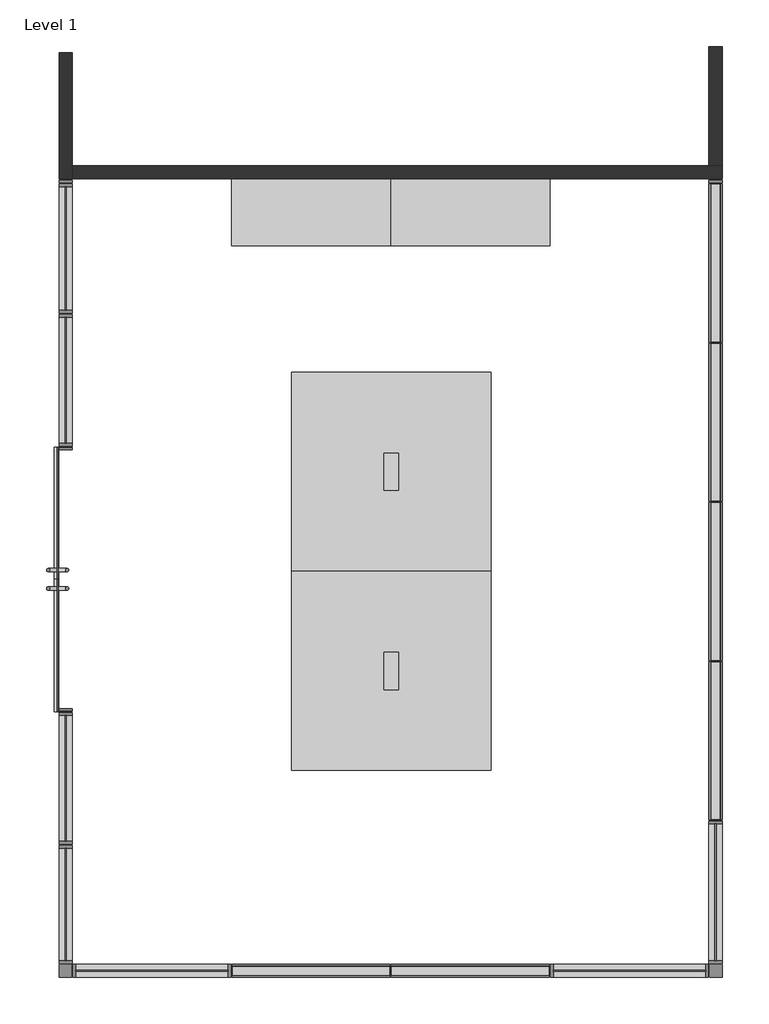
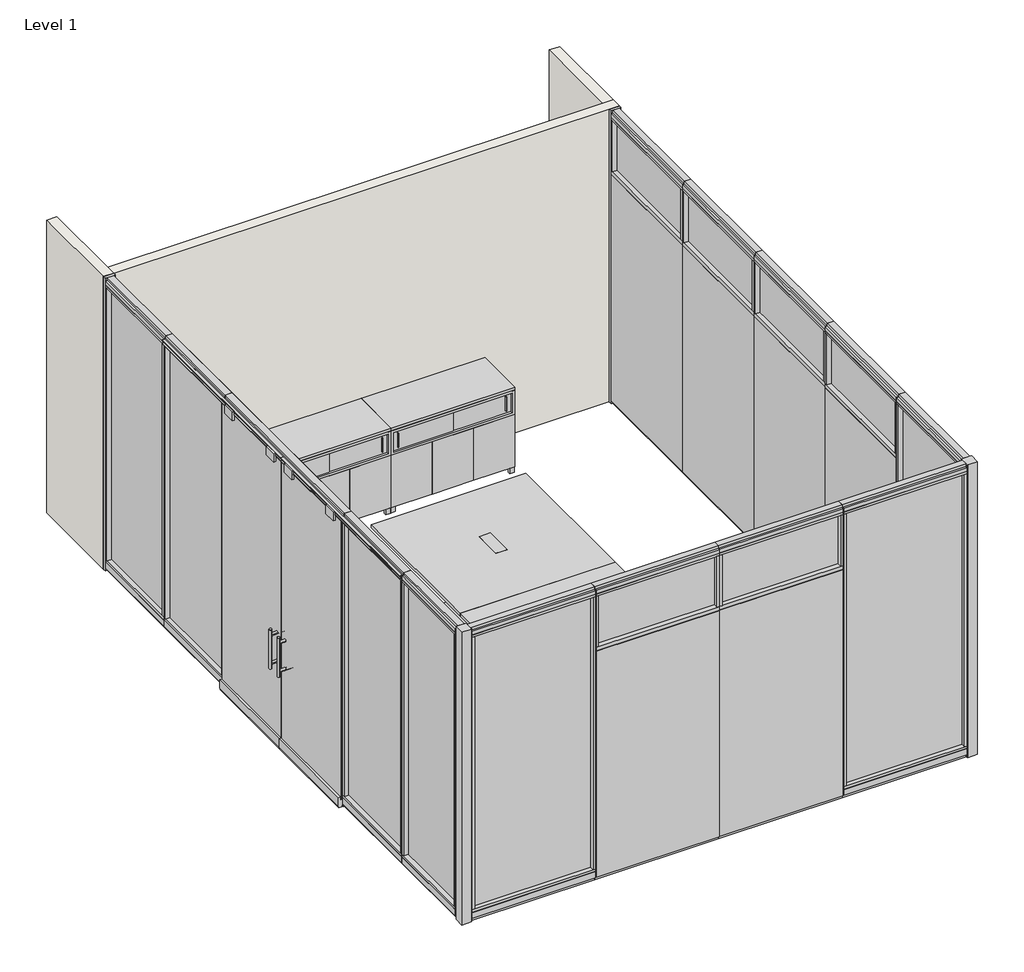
# One storey, incomplete: 22 furniture elements, 3 walls.
"""IFC4 building model written with IfcOpenShell, lengths in millimetres."""

from ifc_helpers import new_model, si_unit, origin, origin_with_axes, place, context, project, spatial, polyline, outline, extrude, faceted_brep, transform, mapped, element, save
from components import furniture_33152e10, furniture_b186ea79, furniture_d8ab0ef7, furniture_c3b1cbea, furniture_a3373b54, furniture_3c25fe57, furniture_37c0ffb3, closed_system_2_way_90_f91a387f, haworth_planes_columnbaseconferencetable_square_e0cd7c03, haworth_planes_credenza_36w_45h_slider_top_8a217daf, low_profile_122eb835

model = new_model("IFC4")

# Units and contexts
model_context = context("Model", 3, world=origin())
ifc_project = project(units=[si_unit("LENGTHUNIT", "METRE", prefix="MILLI")], contexts=[model_context])

# Site, building, storey
site = spatial("IfcSite", under=ifc_project)
building = spatial("IfcBuilding", under=site)
storey = spatial("IfcBuildingStorey", under=building, Name="Level 1", Elevation=0.0)

# Furniture
placement = place(None, origin())
furniture_shape = furniture_33152e10(model_context)
element("IfcFurniture", 1, ObjectType="Haworth_Enclose_Wall_Glass : 36\" x 120\"", at=placement, inside=storey, context=model_context, shape_type="MappedRepresentation", body=[
    mapped(furniture_shape, transform((-2678.7552534, 804.9535492, 0.0), x_axis=(0.0, 1.0, 0.0), y_axis=(-1.0, 0.0, 0.0), z_axis=(0.0, 0.0, 1.0))),
])
furniture_2_shape = furniture_b186ea79(model_context)
element("IfcFurniture", 2, ObjectType="Haworth_Enclose_Wall_Glass : 39\" x 120\"", at=placement, inside=storey, context=model_context, shape_type="MappedRepresentation", body=[
    mapped(furniture_2_shape, transform((-2669.7201673, 5705.128247, 0.0), x_axis=(4.371139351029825e-08, -0.999999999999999, 0.0), y_axis=(0.999999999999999, 4.371139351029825e-08, 0.0), z_axis=(0.0, 0.0, 1.0))),
])
furniture_3_shape = furniture_d8ab0ef7(model_context)
element("IfcFurniture", 3, ObjectType="Haworth_Enclose_Wall_Glass : 40\" x 120\"", at=placement, inside=storey, context=model_context, shape_type="MappedRepresentation", body=[
    mapped(furniture_3_shape, transform((-2678.755547, 4818.15327, 0.0), x_axis=(0.0, 1.0000000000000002, 0.0), y_axis=(-1.0000000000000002, 0.0, 0.0), z_axis=(0.0, 0.0, 1.0))),
])
element("IfcFurniture", 4, ObjectType="Haworth_Enclose_Wall_Glass : 40\" x 120\"", at=placement, inside=storey, context=model_context, shape_type="MappedRepresentation", body=[
    mapped(furniture_3_shape, transform((-2669.7200149, 1650.080213, 0.0), x_axis=(0.0, -1.0, 0.0), y_axis=(1.0, 0.0, 0.0), z_axis=(0.0, 0.0, 1.0))),
])
furniture_4_shape = furniture_c3b1cbea(model_context)
element("IfcFurniture", 5, ObjectType="Haworth_Enclose_Wall_Glass : 43\" x 120\"", at=placement, inside=storey, context=model_context, shape_type="MappedRepresentation", body=[
    mapped(furniture_4_shape, transform((2299.6447356, 897.6732579, 0.0), x_axis=(0.0, 1.0, 0.0), y_axis=(-1.0, 0.0, 0.0), z_axis=(0.0, 0.0, 1.0))),
])
furniture_5_shape = furniture_a3373b54(model_context)
element("IfcFurniture", 6, ObjectType="Haworth_Enclose_Wall_Glass : 48\" x 120\"", at=placement, inside=storey, context=model_context, shape_type="MappedRepresentation", body=[
    mapped(furniture_5_shape, transform((1703.7988656, 241.4347479, 0.0), x_axis=(1.0, 0.0, 0.0), y_axis=(0.0, 1.0, 0.0), z_axis=(0.0, 0.0, 1.0))),
])
element("IfcFurniture", 7, ObjectType="Haworth_Enclose_Wall_Glass : 48\" x 120\"", at=placement, inside=storey, context=model_context, shape_type="MappedRepresentation", body=[
    mapped(furniture_5_shape, transform((-2073.8742595, 232.3993046, 0.0), x_axis=(-1.0, 0.0, 0.0), y_axis=(0.0, -1.0, 0.0), z_axis=(0.0, 0.0, 1.0))),
])
furniture_6_shape = furniture_3c25fe57(model_context)
element("IfcFurniture", 8, ObjectType="Haworth_Enclose_Wall_SolidTransom : 48\" x 120\"", at=placement, inside=storey, context=model_context, shape_type="MappedRepresentation", body=[
    mapped(furniture_6_shape, transform((-734.6012136, 241.4347479, 0.0), x_axis=(1.0, 0.0, 0.0), y_axis=(0.0, 1.0, 0.0), z_axis=(0.0, 0.0, 1.0))),
])
element("IfcFurniture", 9, ObjectType="Haworth_Enclose_Wall_SolidTransom : 48\" x 120\"", at=placement, inside=storey, context=model_context, shape_type="MappedRepresentation", body=[
    mapped(furniture_6_shape, transform((364.5258197, 232.3993046, 0.0), x_axis=(-1.0, 0.0, 0.0), y_axis=(0.0, -1.0, 0.0), z_axis=(0.0, 0.0, 1.0))),
])
element("IfcFurniture", 10, ObjectType="Haworth_Enclose_Wall_SolidTransom : 48\" x 120\"", at=placement, inside=storey, context=model_context, shape_type="MappedRepresentation", body=[
    mapped(furniture_6_shape, transform((2299.6447356, 2057.1369817, 0.0), x_axis=(0.0, 1.0, 0.0), y_axis=(-1.0, 0.0, 0.0), z_axis=(0.0, 0.0, 1.0))),
])
element("IfcFurniture", 11, ObjectType="Haworth_Enclose_Wall_SolidTransom : 48\" x 120\"", at=placement, inside=storey, context=model_context, shape_type="MappedRepresentation", body=[
    mapped(furniture_6_shape, transform((2299.6447356, 3276.3369817, 0.0), x_axis=(0.0, 1.0, 0.0), y_axis=(-1.0, 0.0, 0.0), z_axis=(0.0, 0.0, 1.0))),
])
element("IfcFurniture", 12, ObjectType="Haworth_Enclose_Wall_SolidTransom : 48\" x 120\"", at=placement, inside=storey, context=model_context, shape_type="MappedRepresentation", body=[
    mapped(furniture_6_shape, transform((2299.6447356, 4495.5369817, 0.0), x_axis=(0.0, 1.0, 0.0), y_axis=(-1.0, 0.0, 0.0), z_axis=(0.0, 0.0, 1.0))),
])
element("IfcFurniture", 13, ObjectType="Haworth_Enclose_Wall_SolidTransom : 48\" x 120\"", at=placement, inside=storey, context=model_context, shape_type="MappedRepresentation", body=[
    mapped(furniture_6_shape, transform((2299.6447356, 5714.7369817, 0.0), x_axis=(0.0, 1.0, 0.0), y_axis=(-1.0, 0.0, 0.0), z_axis=(0.0, 0.0, 1.0))),
])
furniture_7_shape = furniture_37c0ffb3(model_context)
element("IfcFurniture", 14, ObjectType="Haworth_Enclose_Door_DoubleSliding : 80\" x 120\"", at=placement, inside=storey, context=model_context, shape_type="MappedRepresentation", body=[
    mapped(furniture_7_shape, transform((-2669.7200149, 3294.1532589, 0.0), x_axis=(0.0, 1.0, 0.0), y_axis=(-1.0, 0.0, 0.0), z_axis=(0.0, 0.0, 1.0))),
])
closed_system_2_way_90_shape = closed_system_2_way_90_f91a387f(model_context)
element("IfcFurniture", 15, ObjectType="Haworth_Enclose_Accessories_WallModuleIntersection : Closed System_2 Way_90", at=placement, inside=storey, context=model_context, shape_type="MappedRepresentation", body=[
    mapped(closed_system_2_way_90_shape, transform((-2755.0148897, 260.5189968, 0.0), x_axis=(1.0, 0.0, 0.0), y_axis=(0.0, 1.0, 0.0), z_axis=(0.0, 0.0, 1.0))),
])
element("IfcFurniture", 16, ObjectType="Haworth_Enclose_Accessories_WallModuleIntersection : Closed System_2 Way_90", at=placement, inside=storey, context=model_context, shape_type="MappedRepresentation", body=[
    mapped(closed_system_2_way_90_shape, transform((2327.7644278, 317.693964, 0.0), x_axis=(0.0, -1.0, 0.0), y_axis=(1.0, 0.0, 0.0), z_axis=(0.0, 0.0, 1.0))),
])
haworth_planes_columnbaseconferencetable_square_shape = haworth_planes_columnbaseconferencetable_square_e0cd7c03(model_context)
element("IfcFurniture", 17, ObjectType="Haworth_Planes_ColumnBaseConferenceTable_Square : 60d 60w 29h", at=placement, inside=storey, context=model_context, shape_type="MappedRepresentation", body=[
    mapped(haworth_planes_columnbaseconferencetable_square_shape, transform((-176.9711238, 3675.8057448, 0.0), x_axis=(0.0, -1.0, 0.0), y_axis=(1.0, 0.0, 0.0), z_axis=(0.0, 0.0, 1.0))),
])
element("IfcFurniture", 18, ObjectType="Haworth_Planes_ColumnBaseConferenceTable_Square : 60d 60w 29h", at=placement, inside=storey, context=model_context, shape_type="MappedRepresentation", body=[
    mapped(haworth_planes_columnbaseconferencetable_square_shape, transform((-176.9711238, 2151.8058417, 0.0), x_axis=(0.0, -1.0, 0.0), y_axis=(1.0, 0.0, 0.0), z_axis=(0.0, 0.0, 1.0))),
])
haworth_planes_credenza_36w_45h_slider_top_shape = haworth_planes_credenza_36w_45h_slider_top_8a217daf(model_context)
element("IfcFurniture", 19, ObjectType="Haworth_Planes_Credenza : 36w 45h Slider Top", at=placement, inside=storey, context=model_context, shape_type="MappedRepresentation", body=[
    mapped(haworth_planes_credenza_36w_45h_slider_top_shape, transform((-1111.8302487, 6188.4406055, 0.0), x_axis=(0.9999999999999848, 1.7484555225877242e-07, 0.0), y_axis=(-1.7484555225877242e-07, 0.9999999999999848, 0.0), z_axis=(0.0, 0.0, 1.0))),
])
element("IfcFurniture", 20, ObjectType="Haworth_Planes_Credenza : 36w 45h Slider Top", at=placement, inside=storey, context=model_context, shape_type="MappedRepresentation", body=[
    mapped(haworth_planes_credenza_36w_45h_slider_top_shape, transform((107.369751, 6188.4408187, 0.0), x_axis=(0.9999999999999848, 1.7484555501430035e-07, 0.0), y_axis=(-1.7484555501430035e-07, 0.9999999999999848, 0.0), z_axis=(0.0, 0.0, 1.0))),
])
low_profile_shape = low_profile_122eb835(model_context)
element("IfcFurniture", 21, ObjectType="Haworth_Enclose_Accessories_WallStart : Low Profile", at=placement, inside=storey, context=model_context, shape_type="MappedRepresentation", body=[
    mapped(low_profile_shape, transform((2319.6642623, 6238.2603056, 0.0), x_axis=(0.0, 1.0, 0.0), y_axis=(-1.0, 0.0, 0.0), z_axis=(0.0, 0.0, 1.0))),
])
element("IfcFurniture", 22, ObjectType="Haworth_Enclose_Accessories_WallStart : Low Profile", at=placement, inside=storey, context=model_context, shape_type="MappedRepresentation", body=[
    mapped(low_profile_shape, transform((-2658.7357374, 6238.244537, 0.0), x_axis=(-1.1924883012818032e-08, 1.0, 0.0), y_axis=(-1.0, -1.1924883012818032e-08, 0.0), z_axis=(0.0, 0.0, 1.0))),
])

# Walls
element("IfcWall", 23, ObjectType="Generic - 4\"", at=placement, inside=storey, context=model_context, shape_type="Brep", body=[
    faceted_brep([(-2725.8949032, 7266.624671, 0.0), (-2725.8949032, 6298.4634587, 0.0), (-2725.8949032, 6298.4634587, 3048.0), (-2725.8949032, 7266.624671, 3048.0), (-2624.2949032, 7266.624671, 0.0), (-2624.2949032, 7266.624671, 3048.0), (-2624.2949032, 6400.0634587, 3048.0), (-2624.2949032, 6298.4634587, 3048.0), (-2624.2949032, 6298.4634587, 0.0), (-2624.2949032, 6400.0634587, 0.0)], [[[0, 1, 2, 3]], [[4, 5, 6, 7, 8, 9]], [[1, 0, 4, 9, 8]], [[3, 2, 7, 6, 5]], [[0, 3, 5, 4]], [[2, 1, 8, 7]]]),
])
element("IfcWall", 24, ObjectType="Generic - 4\"", at=placement, inside=storey, context=model_context, shape_type="Brep", body=[
    faceted_brep([(-2624.2949032, 6298.4634587, 0.0), (2354.9382162, 6298.4634587, 0.0), (2354.9382162, 6298.4634587, 3048.0), (-2624.2949032, 6298.4634587, 3048.0), (-2624.2949032, 6400.0634587, 0.0), (-2624.2949032, 6400.0634587, 3048.0), (2253.3400285, 6400.0634587, 3048.0), (2354.9400285, 6400.0634587, 3048.0), (2354.9400285, 6400.0634587, 0.0), (2253.3400285, 6400.0634587, 0.0)], [[[0, 1, 2, 3]], [[4, 5, 6, 7, 8, 9]], [[1, 0, 4, 9, 8]], [[3, 2, 7, 6, 5]], [[0, 3, 5, 4]], [[2, 1, 8, 7]]]),
])
element("IfcWall", 25, ObjectType="Generic - 4\"", at=placement, inside=storey, context=model_context, shape_type="SweptSolid", body=[
    extrude(outline(polyline([(2354.9563028, 7312.4179996), (2354.9400285, 6400.0634587), (2253.3400285, 6400.0634587), (2253.3563028, 7312.4198119), (2354.9563028, 7312.4179996)])), origin_with_axes(), (0.0, 0.0, 1.0), 3048.0),
])

save(model, "model.ifc")
